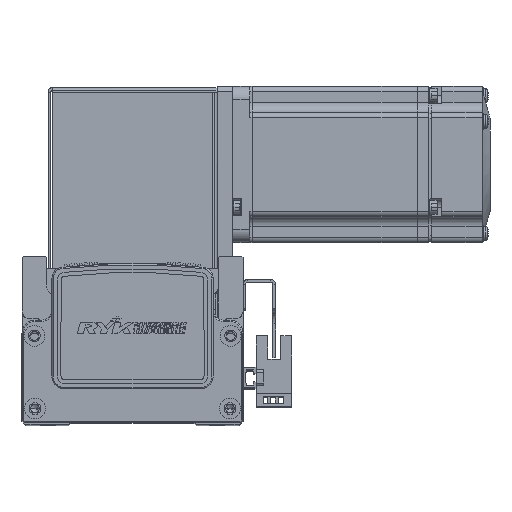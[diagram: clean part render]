
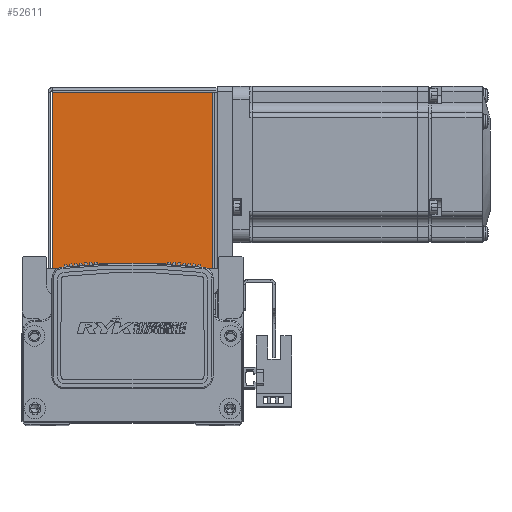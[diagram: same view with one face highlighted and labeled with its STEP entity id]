
A CAD part, top view. The second image highlights one B-rep face of the part: STEP entity #52611.
In plain terms, the highlighted planar face has unit normal (0, 0, 1) as drawn and (0, 0, -1) by its records, which use the part's own axes.
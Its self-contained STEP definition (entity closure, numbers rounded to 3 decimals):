
#3336 = ORIENTED_EDGE ( 'NONE', *, *, #7499, .T. ) ;
#3348 = ORIENTED_EDGE ( 'NONE', *, *, #7462, .F. ) ;
#3350 = ORIENTED_EDGE ( 'NONE', *, *, #7453, .T. ) ;
#3392 = ORIENTED_EDGE ( 'NONE', *, *, #7449, .T. ) ;
#7117 = VERTEX_POINT ( 'NONE', #33545 ) ;
#7120 = VERTEX_POINT ( 'NONE', #33533 ) ;
#7135 = VERTEX_POINT ( 'NONE', #33534 ) ;
#7204 = VERTEX_POINT ( 'NONE', #58051 ) ;
#7449 = EDGE_CURVE ( 'NONE', #7120, #7204, #59276, .T. ) ;
#7453 = EDGE_CURVE ( 'NONE', #7117, #7120, #59283, .T. ) ;
#7462 = EDGE_CURVE ( 'NONE', #7117, #7135, #59254, .T. ) ;
#7499 = EDGE_CURVE ( 'NONE', #7204, #7135, #59307, .T. ) ;
#33533 = CARTESIAN_POINT ( 'NONE',  ( -30.793, 68.5, -35. ) ) ;
#33534 = CARTESIAN_POINT ( 'NONE',  ( 30.763, 0.737, -35. ) ) ;
#33545 = CARTESIAN_POINT ( 'NONE',  ( -30.793, 0.737, -35. ) ) ;
#50866 = AXIS2_PLACEMENT_3D ( 'NONE', #69954, #69982, #69944 ) ;
#52611 = ADVANCED_FACE ( 'NONE', ( #67306 ), #69957, .F. ) ;
#58051 = CARTESIAN_POINT ( 'NONE',  ( 30.763, 68.5, -35. ) ) ;
#58685 = CARTESIAN_POINT ( 'NONE',  ( -30.793, 0., -35. ) ) ;
#58700 = CARTESIAN_POINT ( 'NONE',  ( 0., 68.5, -35. ) ) ;
#58704 = DIRECTION ( 'NONE',  ( 0., 1., 0. ) ) ;
#58714 = DIRECTION ( 'NONE',  ( 1., 0., 0. ) ) ;
#58729 = CARTESIAN_POINT ( 'NONE',  ( 32.5, 0.737, -35. ) ) ;
#58759 = DIRECTION ( 'NONE',  ( 1., 0., 0. ) ) ;
#58825 = DIRECTION ( 'NONE',  ( 0., -1., 0. ) ) ;
#58828 = CARTESIAN_POINT ( 'NONE',  ( 30.763, 68.5, -35. ) ) ;
#59254 = LINE ( 'NONE', #58729, #59267 ) ;
#59267 = VECTOR ( 'NONE', #58759, 1000. ) ;
#59276 = LINE ( 'NONE', #58700, #59295 ) ;
#59283 = LINE ( 'NONE', #58685, #59301 ) ;
#59295 = VECTOR ( 'NONE', #58714, 1000. ) ;
#59301 = VECTOR ( 'NONE', #58704, 1000. ) ;
#59307 = LINE ( 'NONE', #58828, #59350 ) ;
#59350 = VECTOR ( 'NONE', #58825, 1000. ) ;
#60873 = EDGE_LOOP ( 'NONE', ( #3336, #3348, #3350, #3392 ) ) ;
#67306 = FACE_OUTER_BOUND ( 'NONE', #60873, .T. ) ;
#69944 = DIRECTION ( 'NONE',  ( 0., -1., 0. ) ) ;
#69954 = CARTESIAN_POINT ( 'NONE',  ( 0., 0., -35. ) ) ;
#69957 = PLANE ( 'NONE',  #50866 ) ;
#69982 = DIRECTION ( 'NONE',  ( 0., 0., 1. ) ) ;
